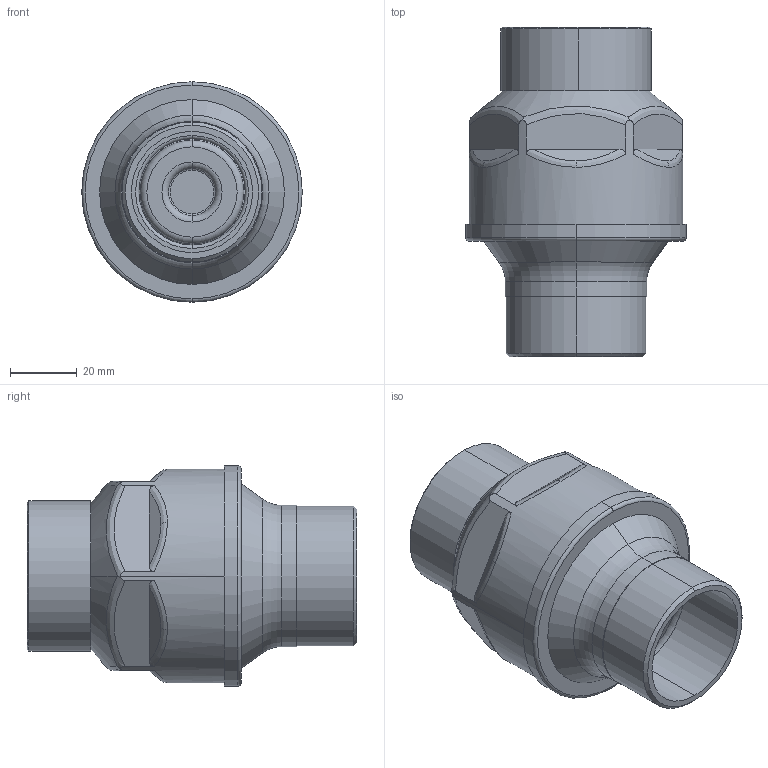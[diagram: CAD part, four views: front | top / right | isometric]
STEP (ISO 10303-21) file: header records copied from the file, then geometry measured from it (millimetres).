
FILE_DESCRIPTION (( 'STEP AP203' ), '1' );
FILE_NAME ('06F0701 cod. 900022 MF G1 1_4.STEP', '2018-10-03T14:35:15', ( '' ), ( '' ), 'SwSTEP 2.0', 'SolidWorks 2016', '' );
FILE_SCHEMA (( 'CONFIG_CONTROL_DESIGN' ));
Length unit declared in the file: millimetre
Products named in the file (1): 06F0701 cod. 900022 MF G1 1_4
Bounding box: 66 x 98.6 x 66 mm (x, y, z)
Volume: 42534.5 mm3; surface area: 55188.2 mm2
Topology: 9 solids, 9 shells, 298 faces, 720 edges, 456 vertices
Faces by surface type: cylinder 86, plane 82, torus 62, bspline 38, cone 30
Entity records: 14895 total; most frequent: CARTESIAN_POINT 8051, ORIENTED_EDGE 1440, DIRECTION 1422, EDGE_CURVE 720, AXIS2_PLACEMENT_3D 599, VERTEX_POINT 456, CIRCLE 338, EDGE_LOOP 328
